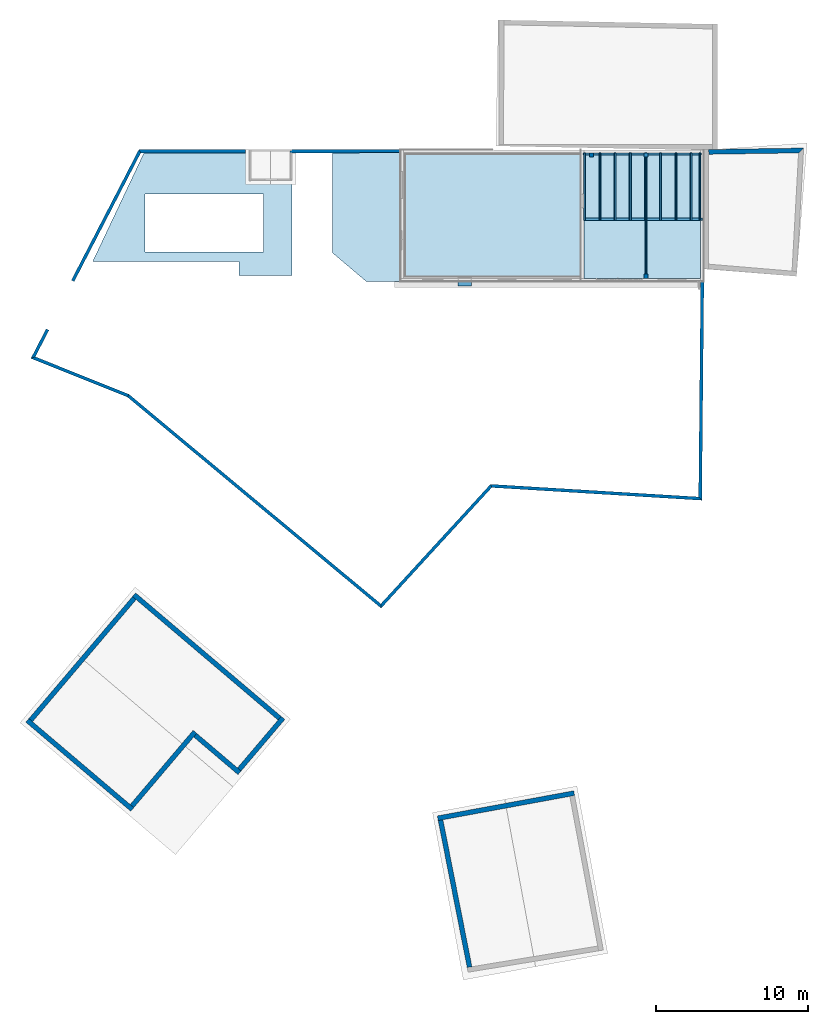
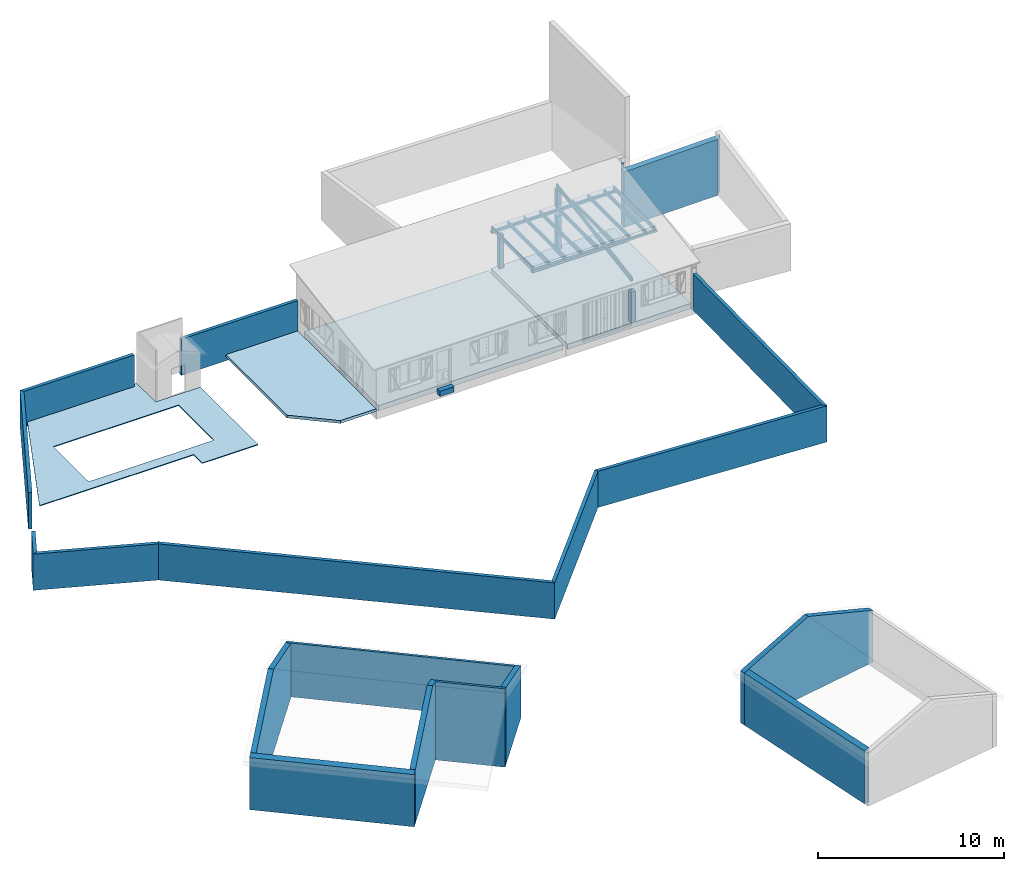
# One storey, part 1 of 12: 18 walls, 12 beams, 6 slabs, 4 columns, 1 opening.
"""IFC2X3 building model written with IfcOpenShell, lengths in metres."""

import ifcopenshell
import ifcopenshell.guid

model = None  # the IFC model being written
_history = None  # IfcOwnerHistory: only IFC2X3 demands one
_inside = {}  # id of a spatial element -> (the spatial element, [elements in it])
_under = {}  # id of a project, library or spatial element -> (it, [spatial elements below it])
_declared = {}  # id of a project -> (the project, [libraries it declares])
_typed = {}  # id of a type object -> (the type object, [elements of that type])
_made_of = {}  # id of a material, layer set ... -> (it, [elements and type objects made of it])


def new_model(schema):
    """Start an empty IFC model of exactly this schema.

    Asked for "IFC4X3", IfcOpenShell would pick the latest addendum, in which some entities
    have other attributes; the version numbers below select the first issue.
    IFC2X3 requires an IfcOwnerHistory on every rooted entity: one is made here for all.
    """
    global model, _history
    if schema == "IFC4X3":
        model = ifcopenshell.file(schema_version=(4, 3, 0, 0))
    else:
        model = ifcopenshell.file(schema=schema)
    _inside.clear()
    _under.clear()
    _declared.clear()
    _typed.clear()
    _made_of.clear()
    _history = None
    if model.schema == "IFC2X3":
        org = make("IfcOrganization", Name="unknown")
        user = make(
            "IfcPersonAndOrganization",
            ThePerson=make("IfcPerson", FamilyName="unknown"),
            TheOrganization=org,
        )
        app = make(
            "IfcApplication",
            ApplicationDeveloper=org,
            Version="unknown",
            ApplicationFullName="unknown",
            ApplicationIdentifier="unknown",
        )
        _history = make(
            "IfcOwnerHistory",
            OwningUser=user,
            OwningApplication=app,
            ChangeAction="ADDED",
            CreationDate=0,
        )
    return model


def make(cls, **values):
    """One entity of the class cls with the attributes given. An attribute that is None is left unset."""
    return model.create_entity(
        cls, **{name: value for name, value in values.items() if value is not None}
    )


def entity(cls, *values):
    """Any entity or typed value of the class cls, its attributes in the order of the schema. None: left unset."""
    e = model.create_entity(cls)
    for i, value in enumerate(values):
        if value is not None:
            e[i] = value
    return e


def rooted(cls, **values):
    """An entity with a GlobalId (a new one), such as an element, a storey or a relation."""
    return make(cls, GlobalId=ifcopenshell.guid.new(), OwnerHistory=_history, **values)


def si_unit(unit_type, name, prefix=None):
    """IfcSIUnit, for example si_unit("LENGTHUNIT", "METRE", prefix="MILLI")."""
    return make("IfcSIUnit", UnitType=unit_type, Prefix=prefix, Name=name)


def converted_unit(unit_type, name, factor, base, dimensions=None, offset=None):
    """IfcConversionBasedUnit, such as the inch: factor (a typed value) times the base unit."""
    return make(
        "IfcConversionBasedUnit"
        if offset is None
        else "IfcConversionBasedUnitWithOffset",
        ConversionOffset=offset,
        Dimensions=None
        if dimensions is None
        else entity("IfcDimensionalExponents", *dimensions),
        UnitType=unit_type,
        Name=name,
        ConversionFactor=make(
            "IfcMeasureWithUnit", ValueComponent=factor, UnitComponent=base
        ),
    )


def derived_unit(unit_type, elements):
    """IfcDerivedUnit: a product of units, each with its exponent."""
    return make(
        "IfcDerivedUnit",
        Elements=[
            make("IfcDerivedUnitElement", Unit=unit, Exponent=power)
            for unit, power in elements
        ],
        UnitType=unit_type,
    )


def money_unit(currency):
    """IfcMonetaryUnit."""
    return make("IfcMonetaryUnit", Currency=currency)


def assignment(units):
    """IfcUnitAssignment: the units of a project."""
    return None if units is None else make("IfcUnitAssignment", Units=units)


def point(xyz):
    """IfcCartesianPoint."""
    return None if xyz is None else make("IfcCartesianPoint", Coordinates=xyz)


def direction(xyz):
    """IfcDirection."""
    return None if xyz is None else make("IfcDirection", DirectionRatios=xyz)


def frame(location, z_axis=None, x_axis=None):
    """IfcAxis2Placement3D, a coordinate frame: its origin and axes. An axis left out is left unset."""
    return make(
        "IfcAxis2Placement3D",
        Location=point(location),
        Axis=direction(z_axis),
        RefDirection=direction(x_axis),
    )


def frame_2d(location, x_axis=None):
    """IfcAxis2Placement2D, a coordinate frame in the plane: its origin and x axis."""
    return make(
        "IfcAxis2Placement2D", Location=point(location), RefDirection=direction(x_axis)
    )


def origin_with_axes():
    """The frame at (0, 0, 0) with the z axis (0, 0, 1) and the x axis (1, 0, 0) written out."""
    return frame((0.0, 0.0, 0.0), z_axis=(0.0, 0.0, 1.0), x_axis=(1.0, 0.0, 0.0))


def origin_2d_with_axis():
    """The frame at (0, 0) in the plane with the x axis (1, 0) written out."""
    return frame_2d((0.0, 0.0), x_axis=(1.0, 0.0))


def place(relative_to, where):
    """IfcLocalPlacement: puts the frame where relative to a parent placement (None: the world)."""
    return make(
        "IfcLocalPlacement", PlacementRelTo=relative_to, RelativePlacement=where
    )


def context(
    kind, dimensions, precision=None, world=None, true_north=None, identifier=None
):
    """IfcGeometricRepresentationContext, for example the 3D "Model" context."""
    return make(
        "IfcGeometricRepresentationContext",
        ContextIdentifier=identifier,
        ContextType=kind,
        CoordinateSpaceDimension=dimensions,
        Precision=precision,
        WorldCoordinateSystem=world,
        TrueNorth=true_north,
    )


def subcontext(parent, identifier, kind, view, scale=None):
    """IfcGeometricRepresentationSubContext, for example "Body" below "Model"."""
    return make(
        "IfcGeometricRepresentationSubContext",
        ContextIdentifier=identifier,
        ContextType=kind,
        ParentContext=parent,
        TargetScale=scale,
        TargetView=view,
    )


def project(units=None, contexts=None):
    """IfcProject with its units and contexts."""
    return rooted(
        "IfcProject",
        Name="project",
        RepresentationContexts=contexts,
        UnitsInContext=assignment(units),
    )


def spatial(cls, under=None, at=None, **own):
    """A site, building, storey or space (cls), placed at a placement, below another one or the project."""
    s = rooted(cls, ObjectPlacement=at, **own)
    if under is not None:
        _under.setdefault(under.id(), (under, []))[1].append(s)
    return s


def polyline(points):
    """IfcPolyline through the points."""
    return make("IfcPolyline", Points=[point(p) for p in points])


def profile(cls, at=None, kind="AREA", **sizes):
    """A parametric profile (cls). Its sizes go by their IFC names, for example OverallWidth=200.0."""
    return make(cls, ProfileType=kind, Position=at, **sizes)


def rectangle(**sizes):
    """IfcRectangleProfileDef."""
    return profile("IfcRectangleProfileDef", **sizes)


def outline(outer, holes=None, kind="AREA"):
    """IfcArbitraryClosedProfileDef: a profile drawn as a closed curve; with holes, ...WithVoids."""
    if holes is None:
        return make("IfcArbitraryClosedProfileDef", ProfileType=kind, OuterCurve=outer)
    return make(
        "IfcArbitraryProfileDefWithVoids",
        ProfileType=kind,
        OuterCurve=outer,
        InnerCurves=holes,
    )


def extrude(swept, where, along, depth):
    """IfcExtrudedAreaSolid: the profile swept, set in the frame where, extruded along a direction by depth."""
    return make(
        "IfcExtrudedAreaSolid",
        SweptArea=swept,
        Position=where,
        ExtrudedDirection=direction(along),
        Depth=depth,
    )


def boolean(op, a, b):
    """IfcBooleanResult of two solids."""
    return make("IfcBooleanResult", Operator=op, FirstOperand=a, SecondOperand=b)


def clip(a, b, op="DIFFERENCE"):
    """IfcBooleanClippingResult: the solid a cut by the half space b."""
    return make(
        "IfcBooleanClippingResult", Operator=op, FirstOperand=a, SecondOperand=b
    )


def halfspace(plane, agree):
    """IfcHalfSpaceSolid: all space on one side of the plane z = 0 of the frame plane."""
    return make(
        "IfcHalfSpaceSolid",
        BaseSurface=make("IfcPlane", Position=plane),
        AgreementFlag=agree,
    )


def bounded_halfspace(plane, agree, where, boundary):
    """IfcPolygonalBoundedHalfSpace: a half space limited to a polygon's prism."""
    return make(
        "IfcPolygonalBoundedHalfSpace",
        BaseSurface=make("IfcPlane", Position=plane),
        AgreementFlag=agree,
        Position=where,
        PolygonalBoundary=boundary,
    )


def faces_of(points, faces, orient=None, outer=None):
    """IfcFace entities. A face is a list of loops; a loop is a list of indices into points, from 0.

    orient and outer hold one flag for each loop. By default every Orientation is true, the
    first loop of a face is its IfcFaceOuterBound and the others are IfcFaceBound.
    """
    made = []
    for i, loops in enumerate(faces):
        bounds = []
        for j, loop in enumerate(loops):
            is_outer = j == 0 if outer is None else outer[i][j]
            bounds.append(
                make(
                    "IfcFaceOuterBound" if is_outer else "IfcFaceBound",
                    Bound=make("IfcPolyLoop", Polygon=[points[k] for k in loop]),
                    Orientation=True if orient is None else orient[i][j],
                )
            )
        made.append(make("IfcFace", Bounds=bounds))
    return made


def faceted_brep(points, faces, orient=None, outer=None, voids=None):
    """IfcFacetedBrep: a solid bounded by flat faces; with voids (closed shells), ...WithVoids."""
    shared = [point(p) for p in points]
    hull = make("IfcClosedShell", CfsFaces=faces_of(shared, faces, orient, outer))
    if voids is None:
        return make("IfcFacetedBrep", Outer=hull)
    return make(
        "IfcFacetedBrepWithVoids",
        Outer=hull,
        Voids=[
            make(cls, CfsFaces=faces_of(shared, fs, o, b)) for cls, fs, o, b in voids
        ],
    )


def shape(context_of_items, identifier, shape_type, items):
    """IfcShapeRepresentation: the items that make up one representation, for example the "Body"."""
    return make(
        "IfcShapeRepresentation",
        ContextOfItems=context_of_items,
        RepresentationIdentifier=identifier,
        RepresentationType=shape_type,
        Items=items,
    )


def material(Name=None, Category=None):
    """IfcMaterial."""
    return make("IfcMaterial", Name=Name, Category=Category)


def layer(
    of_material, thickness, ventilated=None, Name=None, Category=None, Priority=None
):
    """IfcMaterialLayer: one layer of a wall or slab, of a material (None: an air gap)."""
    return make(
        "IfcMaterialLayer",
        Material=of_material,
        LayerThickness=thickness,
        IsVentilated=ventilated,
        Name=Name,
        Category=Category,
        Priority=Priority,
    )


def layer_set(layers, Name=None):
    """IfcMaterialLayerSet."""
    return make("IfcMaterialLayerSet", MaterialLayers=layers, LayerSetName=Name)


def layer_usage(for_layer_set, set_direction, sense, offset, extent=None):
    """IfcMaterialLayerSetUsage: how a layer set lies in its element."""
    return make(
        "IfcMaterialLayerSetUsage",
        ForLayerSet=for_layer_set,
        LayerSetDirection=set_direction,
        DirectionSense=sense,
        OffsetFromReferenceLine=offset,
        ReferenceExtent=extent,
    )


def made_of(thing, what):
    """Note that an element or type object is made of a material, layer set ...; save() writes the relation."""
    if what is not None:
        _made_of.setdefault(what.id(), (what, []))[1].append(thing)
    return thing


def type_object(cls, material=None, **own):
    """A type object (cls), such as IfcWallType, which elements share."""
    return made_of(rooted(cls, **own), material)


def element(
    cls,
    number,
    at=None,
    inside=None,
    cuts=None,
    type_object=None,
    material=None,
    context=None,
    identifier="Body",
    shape_type=None,
    held_by="IfcProductDefinitionShape",
    body=None,
    shapes=None,
    **own,
):
    """One element of the class cls, such as IfcWall. Its Tag is "e" and its number.

    at: its placement. inside: the storey or other place that contains it. cuts: it is an
    opening in that element (IfcRelVoidsElement). A single representation is given by context,
    identifier, shape_type and body (its items); several are given by shapes. held_by: the class
    of the entity that holds the representations. save() writes the other relations.
    """
    e = rooted(cls, Tag="e%d" % number, ObjectPlacement=at, **own)
    if body is not None:
        shapes = [shape(context, identifier, shape_type, body)]
    if shapes is not None:
        e.Representation = make(held_by, Representations=shapes)
    if inside is not None:
        _inside.setdefault(inside.id(), (inside, []))[1].append(e)
    if cuts is not None:
        rooted(
            "IfcRelVoidsElement", RelatingBuildingElement=cuts, RelatedOpeningElement=e
        )
    if type_object is not None:
        _typed.setdefault(type_object.id(), (type_object, []))[1].append(e)
    return made_of(e, material)


def aggregate(whole, parts):
    """IfcRelAggregates: a whole, such as a stair, and the parts it consists of."""
    return rooted("IfcRelAggregates", RelatingObject=whole, RelatedObjects=parts)


def save(model, path):
    """Write the relations noted so far, then the file.

    IfcRelAggregates (storeys below a building ...), IfcRelContainedInSpatialStructure (elements
    in a storey), IfcRelDefinesByType, IfcRelAssociatesMaterial and IfcRelDeclares: one each for
    every whole, place, type object, material and project.
    """
    for whole, parts in _under.values():
        aggregate(whole, parts)
    for where, things in _inside.values():
        rooted(
            "IfcRelContainedInSpatialStructure",
            RelatedElements=things,
            RelatingStructure=where,
        )
    for kind, things in _typed.values():
        rooted("IfcRelDefinesByType", RelatedObjects=things, RelatingType=kind)
    for what, things in _made_of.values():
        rooted("IfcRelAssociatesMaterial", RelatedObjects=things, RelatingMaterial=what)
    for by, libraries in _declared.values():
        rooted("IfcRelDeclares", RelatingContext=by, RelatedDefinitions=libraries)
    model.write(path)


model = new_model("IFC2X3")

# Units and contexts
model_context = context("Model", 3, precision=1e-05, world=origin_with_axes(), true_north=direction((0.0, 1.0)))
body_context = subcontext(model_context, "Body", "Model", "MODEL_VIEW")
ifc_project = project(units=[si_unit("LENGTHUNIT", "METRE"), si_unit("AREAUNIT", "SQUARE_METRE"), si_unit("VOLUMEUNIT", "CUBIC_METRE"), converted_unit("PLANEANGLEUNIT", "DEGREE", entity("IfcPlaneAngleMeasure", 0.0174532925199), si_unit("PLANEANGLEUNIT", "RADIAN"), dimensions=[0, 0, 0, 0, 0, 0, 0]), si_unit("SOLIDANGLEUNIT", "STERADIAN"), money_unit("CHF"), converted_unit("TIMEUNIT", "Year", entity("IfcTimeMeasure", 31556926.0), si_unit("TIMEUNIT", "SECOND"), dimensions=[0, 0, 1, 0, 0, 0, 0]), si_unit("MASSUNIT", "GRAM", prefix="KILO"), si_unit("THERMODYNAMICTEMPERATUREUNIT", "DEGREE_CELSIUS"), si_unit("LUMINOUSINTENSITYUNIT", "LUMEN"), si_unit("ENERGYUNIT", "JOULE", prefix="MEGA"), derived_unit("THERMALCONDUCTANCEUNIT", [(si_unit("POWERUNIT", "WATT"), 1), (si_unit("LENGTHUNIT", "METRE"), -1), (si_unit("THERMODYNAMICTEMPERATUREUNIT", "KELVIN"), -1)]), derived_unit("SPECIFICHEATCAPACITYUNIT", [(si_unit("ENERGYUNIT", "JOULE"), 1), (si_unit("MASSUNIT", "GRAM", prefix="KILO"), -1), (si_unit("THERMODYNAMICTEMPERATUREUNIT", "KELVIN"), -1)]), derived_unit("MASSDENSITYUNIT", [(si_unit("MASSUNIT", "GRAM", prefix="KILO"), 1), (si_unit("VOLUMEUNIT", "CUBIC_METRE"), -1)])], contexts=[model_context])

# Site, building, storey
site_placement = place(None, origin_with_axes())
site = spatial("IfcSite", under=ifc_project, at=site_placement, Name="Site", CompositionType="ELEMENT")
building_placement = place(site_placement, origin_with_axes())
building = spatial("IfcBuilding", under=site, at=building_placement, Name="Bâtiment", CompositionType="ELEMENT")
storey_placement = place(building_placement, origin_with_axes())
storey = spatial("IfcBuildingStorey", under=building, at=storey_placement, Name="Rez-de-chaussée", CompositionType="ELEMENT", Elevation=0.0)

# Columns
ifc_material_1 = material(Name="Béton armé (Coulé)")
column_type = type_object("IfcColumnType", Name="Béton armé (Coulé) 270 x 270", PredefinedType="COLUMN")
column_1_placement = place(storey_placement, frame((24.1071417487, 16.0579346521, 0.0), z_axis=(0.0, 0.0, 1.0), x_axis=(1.0, 0.0, 0.0)))
element("IfcColumn", 1, at=column_1_placement, inside=storey, type_object=column_type, material=ifc_material_1, Name="POTEAU-002", ObjectType="COLUMN", context=body_context, shape_type="SweptSolid", body=[
    extrude(rectangle(XDim=0.27, YDim=0.27, at=origin_2d_with_axis()), origin_with_axes(), (0.0, 0.0, 1.0), 2.19),
])
column_2_placement = place(storey_placement, frame((27.6771417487, 16.0579346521, 0.0), z_axis=(0.0, 0.0, 1.0), x_axis=(1.0, 0.0, 0.0)))
element("IfcColumn", 2, at=column_2_placement, inside=storey, type_object=column_type, material=ifc_material_1, Name="POTEAU-002", ObjectType="COLUMN", context=body_context, shape_type="SweptSolid", body=[
    extrude(rectangle(XDim=0.27, YDim=0.27, at=origin_2d_with_axis()), origin_with_axes(), (0.0, 0.0, 1.0), 2.19400608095),
])
column_3_placement = place(storey_placement, frame((27.6771417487, 8.0879346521, 0.0), z_axis=(0.0, 0.0, 1.0), x_axis=(1.0, 0.0, 0.0)))
element("IfcColumn", 3, at=column_3_placement, inside=storey, type_object=column_type, material=ifc_material_1, Name="POTEAU-002", ObjectType="COLUMN", context=body_context, shape_type="SweptSolid", body=[
    extrude(rectangle(XDim=0.27, YDim=0.27, at=origin_2d_with_axis()), origin_with_axes(), (0.0, 0.0, 1.0), 2.03426351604),
])
column_4_placement = place(storey_placement, frame((27.6771417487, 16.0579346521, 2.79), z_axis=(0.0, 0.0, 1.0), x_axis=(1.0, 0.0, 0.0)))
element("IfcColumn", 4, at=column_4_placement, inside=storey, type_object=column_type, material=ifc_material_1, Name="POTEAU-002", ObjectType="COLUMN", context=body_context, shape_type="SweptSolid", body=[
    extrude(rectangle(XDim=0.27, YDim=0.27, at=origin_2d_with_axis()), origin_with_axes(), (0.0, 0.0, 1.0), 1.11253522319),
])

# Beams
ifc_material_2 = material(Name="Bois massif")
beam_type_1 = type_object("IfcBeamType", Name="Bois massif 150 x 150", PredefinedType="BEAM")
for number, where, z_axis, x_axis, name in (
    (5, (23.6021417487, 11.8377630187, 2.44656535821), (0.0, 0.0, 1.0), (0.0, -1.0, 0.0), "POUTRE-005"),
    (6, (23.5514543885, 16.1179346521, 2.44656535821), (0.0, 0.0, 1.0), (0.0, -1.0, 0.0), "POUTRE-005"),
):
    element("IfcBeam", number, at=place(storey_placement, frame(where, z_axis=z_axis, x_axis=x_axis)), inside=storey, type_object=beam_type_1, material=ifc_material_2, Name=name, ObjectType="BEAM", context=body_context, shape_type="SweptSolid", body=[
        extrude(rectangle(XDim=0.15, YDim=0.15, at=origin_2d_with_axis()), frame((0.0, 0.0, 0.0), z_axis=(0.0, 1.0, 0.0), x_axis=(0.0, 0.0, 1.0)), (0.0, 0.0, 1.0), 7.7886339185),
    ])
beam_type_2 = type_object("IfcBeamType", Name="Bois massif 100 x 220", PredefinedType="BEAM")
beam_placement = place(storey_placement, frame((27.6771417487, 8.1029346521, 2.76277300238), z_axis=(0.0, 0.0, 1.0), x_axis=(1.0, 0.0, 0.0)))
element("IfcBeam", 7, at=beam_placement, inside=storey, type_object=beam_type_2, material=ifc_material_2, Name="POUTRE-003", ObjectType="BEAM", context=body_context, shape_type="Clipping", body=[
    clip(clip(extrude(rectangle(XDim=0.22, YDim=0.1, at=origin_2d_with_axis()), frame((0.0, -0.0491536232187, -0.00786433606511), z_axis=(0.0, 0.987441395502, 0.157985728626), x_axis=(0.0, -0.157985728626, 0.987441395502)), (0.0, 0.0, 1.0), 8.28727692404), halfspace(frame((0.0, 0.0, 0.0), z_axis=(0.0, 1.0, 0.0), x_axis=(0.0, 0.0, 1.0)), True)), halfspace(frame((0.0, 8.08489304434, 0.0), z_axis=(0.0, -1.0, 0.0), x_axis=(0.0, 0.0, -1.0)), True)),
])
for number, where, z_axis, x_axis, name in (
    (8, (23.6521417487, 11.7627630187, 2.63156535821), (0.0, 0.0, 1.0), (1.0, 0.0, 0.0), "POUTRE-006"),
    (9, (24.6521417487, 11.7627630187, 2.63156535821), (0.0, 0.0, 1.0), (1.0, 0.0, 0.0), "POUTRE-006"),
    (10, (25.6521417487, 11.7627630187, 2.63156535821), (0.0, 0.0, 1.0), (1.0, 0.0, 0.0), "POUTRE-006"),
    (11, (26.6521417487, 11.7627630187, 2.63156535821), (0.0, 0.0, 1.0), (1.0, 0.0, 0.0), "POUTRE-006"),
    (12, (27.6521417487, 11.7627630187, 2.63156535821), (0.0, 0.0, 1.0), (1.0, 0.0, 0.0), "POUTRE-006"),
    (13, (28.6521417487, 11.7627630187, 2.63156535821), (0.0, 0.0, 1.0), (1.0, 0.0, 0.0), "POUTRE-006"),
    (14, (29.6521417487, 11.7627630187, 2.63156535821), (0.0, 0.0, 1.0), (1.0, 0.0, 0.0), "POUTRE-006"),
    (15, (30.6521417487, 11.7627630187, 2.63156535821), (0.0, 0.0, 1.0), (1.0, 0.0, 0.0), "POUTRE-006"),
    (16, (31.2221417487, 11.7627630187, 2.63156535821), (0.0, 0.0, 1.0), (1.0, 0.0, 0.0), "POUTRE-006"),
):
    element("IfcBeam", number, at=place(storey_placement, frame(where, z_axis=z_axis, x_axis=x_axis)), inside=storey, type_object=beam_type_2, material=ifc_material_2, Name=name, ObjectType="BEAM", context=body_context, shape_type="SweptSolid", body=[
        extrude(rectangle(XDim=0.22, YDim=0.1, at=origin_2d_with_axis()), frame((0.0, 0.0, 0.0), z_axis=(0.0, 1.0, 0.0), x_axis=(0.0, 0.0, 1.0)), (0.0, 0.0, 1.0), 4.43017163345),
    ])

# Slabs
ifc_layer_1 = layer(ifc_material_1, 0.34, ventilated="UNKNOWN")
ifc_layer_set_1 = layer_set([ifc_layer_1], Name="Béton armé (Coulé) 0.34")
ifc_layer_usage_1 = layer_usage(ifc_layer_set_1, "AXIS3", "NEGATIVE", 0.34)
slab_type_1 = type_object("IfcSlabType", Name="Béton armé (Coulé) 340", PredefinedType="FLOOR")
slab_1_placement = place(storey_placement, frame((31.2721417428, 16.1929346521, 0.0), z_axis=(0.0, 0.0, 1.0), x_axis=(1.0, 0.0, 0.0)))
element("IfcSlab", 17, at=slab_1_placement, inside=storey, type_object=slab_type_1, material=ifc_layer_usage_1, Name="DALLE-002", PredefinedType="FLOOR", context=body_context, shape_type="SweptSolid", body=[
    extrude(outline(polyline([(0.0, 0.0), (-7.66999999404, 0.0), (-7.66999999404, -8.24), (0.0, -8.24), (0.0, 0.0)])), frame((0.0, 0.0, -0.34), z_axis=(0.0, 0.0, 1.0), x_axis=(1.0, 0.0, 0.0)), (0.0, 0.0, 1.0), 0.34),
])
ifc_layer_usage_2 = layer_usage(ifc_layer_set_1, "AXIS3", "NEGATIVE", 0.34)
slab_2_placement = place(storey_placement, frame((15.3471417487, 7.4379346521, 0.1), z_axis=(0.0, 0.0, 1.0), x_axis=(1.0, 0.0, 0.0)))
element("IfcSlab", 18, at=slab_2_placement, inside=storey, type_object=slab_type_1, material=ifc_layer_usage_2, Name="DALLE-004", PredefinedType="FLOOR", context=body_context, shape_type="SweptSolid", body=[
    extrude(outline(polyline([(0.0, 0.0), (0.9, 0.0), (0.9, 0.3), (0.0, 0.3), (0.0, 0.0)])), frame((0.0, 0.0, -0.34), z_axis=(0.0, 0.0, 1.0), x_axis=(1.0, 0.0, 0.0)), (0.0, 0.0, 1.0), 0.34),
])
ifc_layer_usage_3 = layer_usage(ifc_layer_set_1, "AXIS3", "NEGATIVE", 0.34)
slab_3_placement = place(storey_placement, frame((11.8821417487, 8.0529346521, 0.0), z_axis=(0.0, 0.0, 1.0), x_axis=(1.0, 0.0, 0.0)))
element("IfcSlab", 19, at=slab_3_placement, inside=storey, type_object=slab_type_1, material=ifc_layer_usage_3, Name="DALLE-002", PredefinedType="FLOOR", context=body_context, shape_type="SweptSolid", body=[
    extrude(outline(polyline([(0.0, 0.0), (11.505, 0.0), (11.505, 8.03999994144), (0.0, 8.03999994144), (0.0, 0.0)])), frame((0.0, 0.0, -0.34), z_axis=(0.0, 0.0, 1.0), x_axis=(1.0, 0.0, 0.0)), (0.0, 0.0, 1.0), 0.34),
])
ifc_material_3 = material(Name="Bois - Liteaux")
ifc_layer_2 = layer(ifc_material_3, 0.183233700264, ventilated="UNKNOWN")
ifc_layer_set_2 = layer_set([ifc_layer_2], Name="Bois - Liteaux 0.183234")
ifc_layer_usage_4 = layer_usage(ifc_layer_set_2, "AXIS3", "NEGATIVE", 0.183233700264)
slab_type_2 = type_object("IfcSlabType", Name="Bois - Liteaux 183", PredefinedType="FLOOR")
slab_4_placement = place(storey_placement, frame((9.3325351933, 7.7379346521, 0.1), z_axis=(0.0, 0.0, 1.0), x_axis=(1.0, 0.0, 0.0)))
element("IfcSlab", 20, at=slab_4_placement, inside=storey, type_object=slab_type_2, material=ifc_layer_usage_4, Name="DALLE-003", PredefinedType="FLOOR", context=body_context, shape_type="SweptSolid", body=[
    extrude(outline(polyline([(0.0, 0.0), (2.23460655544, 0.0), (2.23460655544, 8.67), (-2.23460655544, 8.67), (-2.23460655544, 1.89373242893), (0.0, 0.0)])), frame((0.0, 0.0, -0.183233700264), z_axis=(0.0, 0.0, 1.0), x_axis=(1.0, 0.0, 0.0)), (0.0, 0.0, 1.0), 0.183233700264),
])

# Slab, opening
ifc_material_4 = material(Name="Dallage pierre")
ifc_layer_3 = layer(ifc_material_4, 0.054, ventilated="UNKNOWN")
ifc_layer_set_3 = layer_set([ifc_layer_3], Name="Dallage pierre 0.054")
ifc_layer_usage_5 = layer_usage(ifc_layer_set_3, "AXIS3", "NEGATIVE", 0.054)
slab_type_3 = type_object("IfcSlabType", Name="Dallage pierre 54", PredefinedType="FLOOR")
slab_5_placement = place(storey_placement, frame((-8.635027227, 9.05590577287, 0.0), z_axis=(0.0, 0.0, 1.0), x_axis=(1.0, 0.0, 0.0)))
slab_5 = element("IfcSlab", 21, at=slab_5_placement, inside=storey, type_object=slab_type_3, material=ifc_layer_usage_5, Name="DALLE-004", PredefinedType="FLOOR", context=body_context, shape_type="SweptSolid", body=[
    extrude(outline(polyline([(0.0, 0.0), (9.59721576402, 0.0), (9.59721576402, -0.909475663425), (13.0835391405, -0.909475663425), (13.0835391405, 5.31354311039), (10.2915257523, 5.31354304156), (10.2915257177, 7.34605666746), (3.46774623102, 7.34469052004), (0.0, 0.0)])), frame((0.0, 0.0, -0.054), z_axis=(0.0, 0.0, 1.0), x_axis=(1.0, 0.0, 0.0)), (0.0, 0.0, 1.0), 0.054),
])
opening_placement = place(slab_5_placement, frame((3.42559937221, 4.43073908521, 0.0), z_axis=(0.0, 0.0, 1.0), x_axis=(0.0, -1.0, 0.0)))
element("IfcOpeningElement", 22, at=opening_placement, cuts=slab_5, Name="Ouverture de dalle", context=body_context, shape_type="SweptSolid", body=[
    extrude(outline(polyline([(0.0, 0.0), (3.8, 0.0), (3.8, 7.8), (0.0, 7.8), (0.0, 0.0)])), frame((0.0, 0.0, -0.054), z_axis=(0.0, 0.0, 1.0), x_axis=(1.0, 0.0, 0.0)), (0.0, 0.0, 1.0), 0.054),
])

# Slab
ifc_material_5 = material(Name="Bois OSB")
ifc_layer_4 = layer(ifc_material_5, 0.054, ventilated="UNKNOWN")
ifc_layer_set_4 = layer_set([ifc_layer_4], Name="Bois OSB 0.054")
ifc_layer_usage_6 = layer_usage(ifc_layer_set_4, "AXIS3", "NEGATIVE", 0.054)
slab_type_4 = type_object("IfcSlabType", Name="Bois OSB 54", PredefinedType="FLOOR")
slab_6_placement = place(storey_placement, frame((23.6021417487, 11.7627630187, 2.79689412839), z_axis=(0.0, 0.0, 1.0), x_axis=(1.0, 0.0, 0.0)))
element("IfcSlab", 23, at=slab_6_placement, inside=storey, type_object=slab_type_4, material=ifc_layer_usage_6, Name="DALLE-005", PredefinedType="FLOOR", context=body_context, shape_type="SweptSolid", body=[
    extrude(outline(polyline([(0.0, 0.0), (7.67, 0.0), (7.67, 4.43017163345), (0.0, 4.43017163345), (0.0, 0.0)])), frame((0.0, 0.0, -0.054), z_axis=(0.0, 0.0, 1.0), x_axis=(1.0, 0.0, 0.0)), (0.0, 0.0, 1.0), 0.054),
])

# Walls
ifc_material_6 = material(Name="Volume - Etude")
ifc_layer_5 = layer(ifc_material_6, 0.315, ventilated="UNKNOWN")
ifc_layer_set_5 = layer_set([ifc_layer_5], Name="Volume - Etude 0.315")
ifc_layer_usage_7 = layer_usage(ifc_layer_set_5, "AXIS2", "POSITIVE", 0.0)
wall_type_1 = type_object("IfcWallType", Name="Volume - Etude 315", PredefinedType="ELEMENTEDWALL")
wall_1_placement = place(storey_placement, frame((38.0341147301, 16.5043029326, -0.13), z_axis=(0.0, 0.0, 1.0), x_axis=(-0.999880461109, -0.0154616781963, 0.0)))
element("IfcWallStandardCase", 24, at=wall_1_placement, inside=storey, type_object=wall_type_1, material=ifc_layer_usage_7, Name="MUR_EXT-028", ObjectType="ELEMENTEDWALL", context=body_context, shape_type="Clipping", body=[
    clip(extrude(outline(polyline([(0.0, 0.0), (6.23271803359, 0.0), (6.23271803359, 0.315), (0.338126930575, 0.315), (0.0, 0.0)])), origin_with_axes(), (0.0, 0.0, 1.0), 4.04002765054), bounded_halfspace(frame((0.0276620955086, 0.390112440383, 3.68326103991), z_axis=(-0.00746823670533, -0.105322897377, -0.994410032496), x_axis=(0.0, 0.994437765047, -0.105325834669)), True, origin_with_axes(), polyline([(-6.27842926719, -0.01), (5.83476852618, -0.01), (12.1321013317, 0.315), (12.1321013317, 0.325), (0.0189035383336, 0.325), (-6.27842926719, 0.0), (-6.27842926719, -0.01)]))),
])
wall_2_placement = place(storey_placement, frame((-13.0246922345, -21.1850699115, -0.13), z_axis=(0.0, 0.0, 1.0), x_axis=(0.762532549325, -0.646949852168, 0.0)))
element("IfcWall", 25, at=wall_2_placement, inside=storey, type_object=wall_type_1, material=ifc_material_6, Name="MUR_EXT-011", ObjectType="ELEMENTEDWALL", context=body_context, shape_type="CSG", body=[
    boolean("DIFFERENCE", extrude(outline(polyline([(0.0, 0.0), (9.03240382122, 0.0), (9.03240382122, 0.315), (0.0, 0.315), (0.0, 0.0)])), origin_with_axes(), (0.0, 0.0, 1.0), 8.27830126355), faceted_brep([(9.03240382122, 0.0, 3.42995844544), (9.0324018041, 0.315, 3.54460906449), (9.03240382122, 0.315, 8.27830126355), (9.03240382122, 0.0, 8.27830126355), (8.85817085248e-05, 0.315, 3.54368458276), (0.0, 0.0, 3.42903395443), (8.85817085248e-05, 0.315, 0.0), (0.0, 0.315, 0.0), (0.0, 0.315, 8.27830126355), (0.0, 0.0, 8.27830126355), (0.0, 0.0, 0.0)], [[[0, 1, 2, 3]], [[4, 1, 0, 5]], [[4, 6, 7, 8, 2, 1]], [[8, 9, 3, 2]], [[5, 0, 3, 9]], [[6, 4, 5, 10]], [[6, 10, 7]], [[10, 5, 9, 8, 7]]])),
])
wall_3_placement = place(storey_placement, frame((-6.13719032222, -27.0285822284, -0.13), z_axis=(0.0, 0.0, 1.0), x_axis=(0.646944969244, 0.762536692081, 0.0)))
element("IfcWall", 26, at=wall_3_placement, inside=storey, type_object=wall_type_1, material=ifc_material_6, Name="MUR_EXT-012", ObjectType="ELEMENTEDWALL", context=body_context, shape_type="CSG", body=[
    boolean("DIFFERENCE", extrude(outline(polyline([(0.0, 0.0), (6.70225243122, 0.0), (6.70225243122, 0.315), (0.0, 0.315), (0.0, 0.0)])), origin_with_axes(), (0.0, 0.0, 1.0), 8.27830126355), faceted_brep([(0.315000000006, 0.0, 3.54460906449), (5.5660208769, 0.0, 5.45582428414), (6.70219431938, 0.0, 5.04229098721), (6.70219431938, 0.0, 0.0), (6.70225243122, 0.0, 0.0), (6.70225243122, 0.0, 8.27830126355), (0.0, 0.0, 8.27830126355), (0.0, 0.0, 0.0), (0.315000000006, 0.0, 0.0), (0.315002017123, 0.315, 3.54457682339), (5.56611147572, 0.315, 5.45582428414), (6.70225243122, 0.315, 5.04230281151), (6.70225243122, 0.315, 0.0), (6.70225243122, 0.315, 8.27830126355), (0.0, 0.315, 8.27830126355), (0.0, 0.315, 0.0), (0.315002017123, 0.315, 0.0)], [[[0, 1, 2, 3, 4, 5, 6, 7, 8]], [[1, 0, 9, 10]], [[2, 1, 10, 11]], [[3, 2, 11, 12]], [[3, 12, 4]], [[12, 11, 13, 5, 4]], [[14, 6, 5, 13]], [[14, 15, 7, 6]], [[16, 8, 7, 15]], [[0, 8, 16, 9]], [[9, 16, 15, 14, 13, 11, 10]]])),
])
wall_4_placement = place(storey_placement, frame((-2.00502709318, -22.1581122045, -0.13), z_axis=(0.0, 0.0, 1.0), x_axis=(0.762417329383, -0.647085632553, 0.0)))
element("IfcWall", 27, at=wall_4_placement, inside=storey, type_object=wall_type_1, material=ifc_material_6, Name="MUR_EXT-013", ObjectType="ELEMENTEDWALL", context=body_context, shape_type="CSG", body=[
    boolean("DIFFERENCE", extrude(outline(polyline([(-0.315058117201, 0.0), (3.81435050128, 0.0), (3.81435050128, 0.315), (-0.315058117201, 0.315), (-0.315058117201, 0.0)])), origin_with_axes(), (0.0, 0.0, 1.0), 8.27830126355), faceted_brep([(3.81435050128, 0.315, 0.0), (3.81435050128, 0.315, 5.04214780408), (3.81435050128, 0.315, 8.27830126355), (3.81435050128, 0.0, 8.27830126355), (3.81435050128, 0.0, 0.0), (3.81420077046, 0.0, 0.0), (3.81420077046, 0.0, 5.15679843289), (-5.81118409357e-05, 0.315, 5.04229098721), (-5.81118409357e-05, 0.315, 0.0), (-0.315058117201, 0.315, 0.0), (-0.315058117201, 0.315, 8.27830126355), (-0.315058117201, 0.0, 8.27830126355), (-0.315058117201, 0.0, 0.0), (0.0, 0.0, 0.0), (0.0, 0.0, 5.15694160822)], [[[0, 1, 2, 3, 4]], [[1, 0, 5, 6]], [[7, 8, 9, 10, 2, 1]], [[10, 11, 3, 2]], [[6, 5, 4, 3, 11, 12, 13, 14]], [[5, 0, 4]], [[7, 1, 6, 14]], [[8, 7, 14, 13]], [[8, 13, 12, 9]], [[10, 9, 12, 11]]])),
])
wall_5_placement = place(storey_placement, frame((0.902985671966, -24.6262267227, -0.13), z_axis=(0.0, 0.0, 1.0), x_axis=(0.647447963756, 0.762109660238, 0.0)))
element("IfcWall", 28, at=wall_5_placement, inside=storey, type_object=wall_type_1, material=ifc_material_6, Name="MUR_EXT-014", ObjectType="ELEMENTEDWALL", context=body_context, shape_type="CSG", body=[
    boolean("DIFFERENCE", extrude(outline(polyline([(-0.000149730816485, 0.0), (4.74950847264, 0.0), (4.74950847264, 0.315), (-0.000149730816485, 0.315), (-0.000149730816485, 0.0)])), origin_with_axes(), (0.0, 0.0, 1.0), 8.27830126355), faceted_brep([(0.315000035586, 0.0, 0.0), (0.315000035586, 0.0, 5.04214780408), (4.74950847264, 0.0, 3.42811884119), (4.74950847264, 0.0, 8.27830126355), (-0.000149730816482, 0.0, 8.27830126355), (-0.000149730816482, 0.0, 0.0), (0.31485030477, 0.315, 0.0), (0.31485030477, 0.315, 5.04215962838), (4.74932957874, 0.315, 3.42814127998), (4.74950847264, 0.0, 0.0), (4.74950847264, 0.315, 0.0), (4.74950847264, 0.315, 8.27830126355), (-0.000149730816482, 0.315, 8.27830126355), (-0.000149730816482, 0.315, 0.0), (4.74932957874, 0.315, 0.0)], [[[0, 1, 2, 3, 4, 5]], [[1, 0, 6, 7]], [[2, 1, 7, 8]], [[2, 9, 10, 11, 3]], [[12, 4, 3, 11]], [[12, 13, 5, 4]], [[6, 0, 5, 13]], [[7, 6, 13, 12, 11, 10, 14, 8]], [[9, 2, 8, 14]], [[9, 14, 10]]])),
])
wall_6_placement = place(storey_placement, frame((3.97804526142, -21.0065804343, -0.13), z_axis=(0.0, 0.0, 1.0), x_axis=(-0.762477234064, 0.647015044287, 0.0)))
element("IfcWall", 29, at=wall_6_placement, inside=storey, type_object=wall_type_1, material=ifc_material_6, Name="MUR_EXT-015", ObjectType="ELEMENTEDWALL", context=body_context, shape_type="CSG", body=[
    boolean("DIFFERENCE", extrude(outline(polyline([(0.0, 0.0), (12.8465968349, 0.0), (12.8465968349, 0.315), (0.0, 0.315), (0.0, 0.0)])), origin_with_axes(), (0.0, 0.0, 1.0), 8.27830126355), faceted_brep([(12.8465351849, 0.0, 3.42903395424), (12.8465351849, 0.0, 0.0), (12.8465968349, 0.0, 0.0), (12.8465968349, 0.0, 8.27830126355), (0.0, 0.0, 8.27830126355), (0.0, 0.0, 0.0), (0.315000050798, 0.0, 0.0), (0.315000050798, 0.0, 3.42814127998), (12.8465968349, 0.315, 3.54368458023), (12.8465968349, 0.315, 0.0), (12.8465968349, 0.315, 8.27830126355), (0.0, 0.315, 8.27830126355), (0.0, 0.315, 0.0), (0.315178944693, 0.315, 0.0), (0.315178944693, 0.315, 3.54279191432)], [[[0, 1, 2, 3, 4, 5, 6, 7]], [[1, 0, 8, 9]], [[1, 9, 2]], [[9, 8, 10, 3, 2]], [[11, 4, 3, 10]], [[11, 12, 5, 4]], [[13, 6, 5, 12]], [[7, 6, 13, 14]], [[0, 7, 14, 8]], [[14, 13, 12, 11, 10, 8]]])),
])
wall_7_placement = place(storey_placement, frame((-5.81714535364, -12.6946789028, -0.13), z_axis=(0.0, 0.0, 1.0), x_axis=(-0.64716425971, -0.762350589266, 0.0)))
element("IfcWall", 30, at=wall_7_placement, inside=storey, type_object=wall_type_1, material=ifc_material_6, Name="MUR_EXT-016", ObjectType="ELEMENTEDWALL", context=body_context, shape_type="CSG", body=[
    boolean("DIFFERENCE", extrude(outline(polyline([(-6.16500535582e-05, 0.0), (11.1371213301, 0.0), (11.1371213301, 0.315), (-6.16500535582e-05, 0.315), (-6.16500535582e-05, 0.0)])), origin_with_axes(), (0.0, 0.0, 1.0), 8.27830126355), faceted_brep([(10.822032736, 0.315, 3.54371682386), (5.56856066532, 0.315, 5.45582428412), (0.314938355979, 0.315, 3.54366214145), (0.314938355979, 0.315, 0.0), (-6.16500535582e-05, 0.315, 0.0), (-6.16500535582e-05, 0.315, 8.27830126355), (11.1371213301, 0.315, 8.27830126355), (11.1371213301, 0.315, 0.0), (10.822032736, 0.315, 0.0), (10.8221213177, 0.0, 3.54368458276), (5.56856066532, 0.0, 5.45582428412), (0.315000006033, 0.0, 3.54368458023), (0.315000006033, 0.0, 0.0), (-6.16500535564e-05, 0.0, 0.0), (-6.16500535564e-05, 0.0, 8.27830126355), (11.1371213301, 0.0, 8.27830126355), (11.1371213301, 0.0, 0.0), (10.8221213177, 0.0, 0.0)], [[[0, 1, 2, 3, 4, 5, 6, 7, 8]], [[1, 0, 9, 10]], [[2, 1, 10, 11]], [[3, 2, 11, 12]], [[3, 12, 13, 4]], [[5, 4, 13, 14]], [[5, 14, 15, 6]], [[15, 16, 7, 6]], [[17, 8, 7, 16]], [[0, 8, 17, 9]], [[9, 17, 16, 15, 14, 13, 12, 11, 10]]])),
])
wall_8_placement = place(storey_placement, frame((14.3569809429, -27.586757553, -0.13), z_axis=(0.0, 0.0, 1.0), x_axis=(0.983441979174, 0.181223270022, 0.0)))
element("IfcWall", 31, at=wall_8_placement, inside=storey, type_object=wall_type_1, material=ifc_material_6, Name="MUR_EXT-017", ObjectType="ELEMENTEDWALL", context=body_context, shape_type="CSG", body=[
    boolean("DIFFERENCE", extrude(outline(polyline([(-0.318974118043, 0.0), (8.7838549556, 0.0), (8.7838549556, 0.315), (-0.318974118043, 0.315), (-0.318974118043, 0.0)])), origin_with_axes(), (0.0, 0.0, 1.0), 8.27830126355), faceted_brep([(-0.31502475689, 0.0, 3.43047140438), (4.23212240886, 0.0, 5.08549762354), (8.7838549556, 0.0, 3.42880246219), (8.7838549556, 0.0, 8.27830126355), (-0.318974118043, 0.0, 8.27830126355), (-0.318974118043, 0.0, 0.0), (-0.31502475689, 0.0, 0.0), (-0.318974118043, 0.315, 3.42903395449), (4.23212240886, 0.315, 5.08549762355), (8.78321893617, 0.315, 3.42903395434), (8.7838549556, 0.0, 0.0), (8.7838549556, 0.315, 0.0), (8.7838549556, 0.315, 8.27830126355), (-0.318974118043, 0.315, 8.27830126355), (-0.318974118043, 0.315, 0.0), (8.78321893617, 0.315, 0.0)], [[[0, 1, 2, 3, 4, 5, 6]], [[1, 0, 7, 8]], [[2, 1, 8, 9]], [[2, 10, 11, 12, 3]], [[13, 4, 3, 12]], [[7, 14, 5, 4, 13]], [[14, 6, 5]], [[0, 6, 14, 7]], [[8, 7, 13, 12, 11, 15, 9]], [[10, 2, 9, 15]], [[10, 15, 11]]])),
])
wall_9_placement = place(storey_placement, frame((16.2601323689, -37.2343046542, -0.13), z_axis=(0.0, 0.0, 1.0), x_axis=(-0.193538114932, 0.981092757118, 0.0)))
element("IfcWall", 32, at=wall_9_placement, inside=storey, type_object=wall_type_1, material=ifc_material_6, Name="MUR_EXT-020", ObjectType="ELEMENTEDWALL", context=body_context, shape_type="CSG", body=[
    boolean("DIFFERENCE", extrude(outline(polyline([(-0.315162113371, 0.0), (10.1524450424, 0.0), (10.1524450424, 0.315), (-0.315162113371, 0.315), (-0.315162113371, 0.0)])), origin_with_axes(), (0.0, 0.0, 1.0), 8.27830126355), faceted_brep([(9.83347092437, 0.0, 3.54513103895), (9.83347092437, 0.0, 0.0), (10.1524450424, 0.0, 0.0), (10.1524450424, 0.0, 8.27830126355), (-0.315162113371, 0.0, 8.27830126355), (-0.315162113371, 0.0, 0.0), (0.0, 0.0, 0.0), (0.0, 0.0, 3.59000091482), (9.83742028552, 0.315, 3.43047140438), (9.83742028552, 0.315, 0.0), (10.1524450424, 0.315, 0.0), (10.1524450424, 0.315, 8.27830126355), (-0.315162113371, 0.315, 8.27830126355), (-0.315162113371, 0.315, 0.0), (0.0101073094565, 0.315, 0.0), (0.0101073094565, 0.315, 3.4753131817)], [[[0, 1, 2, 3, 4, 5, 6, 7]], [[1, 0, 8, 9]], [[1, 9, 10, 2]], [[3, 2, 10, 11]], [[12, 4, 3, 11]], [[12, 13, 5, 4]], [[14, 6, 5, 13]], [[7, 6, 14, 15]], [[0, 7, 15, 8]], [[15, 14, 13, 12, 11, 10, 9, 8]]])),
])
ifc_material_7 = material(Name="Finition int - Enduit plâtre")
ifc_layer_6 = layer(ifc_material_7, 0.015, ventilated="UNKNOWN")
ifc_material_8 = material(Name="Béton armé (Banché)")
ifc_layer_7 = layer(ifc_material_8, 0.18, ventilated="UNKNOWN")
ifc_layer_8 = layer(ifc_material_7, 0.015, ventilated="UNKNOWN")
ifc_layer_set_6 = layer_set([ifc_layer_6, ifc_layer_7, ifc_layer_8], Name="2.0 - Refend: béton + enduit plâtre 2 faces")
ifc_layer_usage_8 = layer_usage(ifc_layer_set_6, "AXIS2", "NEGATIVE", 2.77555756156e-17)
wall_type_2 = type_object("IfcWallType", Name="2.0 - Refend: béton + enduit plâtre 2 faces 210", PredefinedType="ELEMENTEDWALL")
wall_10_placement = place(storey_placement, frame((-6.35944422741, 0.158640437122, -0.3), z_axis=(0.0, 0.0, 1.0), x_axis=(-0.928310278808, 0.371806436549, 0.0)))
element("IfcWallStandardCase", 33, at=wall_10_placement, inside=storey, type_object=wall_type_2, material=ifc_layer_usage_8, Name="MUR_EXT-032", ObjectType="ELEMENTEDWALL", context=body_context, shape_type="SweptSolid", body=[
    extrude(outline(polyline([(-0.0331490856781, -0.21), (6.59180769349, -0.21), (6.82309360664, 0.0), (0.0, 0.0), (-0.0331490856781, -0.21)])), origin_with_axes(), (0.0, 0.0, 1.0), 2.38277264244),
])
ifc_layer_usage_9 = layer_usage(ifc_layer_set_6, "AXIS2", "NEGATIVE", 2.77555756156e-17)
wall_11_placement = place(storey_placement, frame((31.4871417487, 7.7379346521, -0.3), z_axis=(0.0, 0.0, 1.0), x_axis=(-0.00975139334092, -0.999952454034, 0.0)))
element("IfcWallStandardCase", 34, at=wall_11_placement, inside=storey, type_object=wall_type_2, material=ifc_layer_usage_9, Name="MUR_EXT-029", ObjectType="ELEMENTEDWALL", context=body_context, shape_type="SweptSolid", body=[
    extrude(outline(polyline([(0.0, -0.21), (14.1359414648, -0.21), (14.3569314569, 0.0), (0.0, 0.0), (0.0, -0.21)])), origin_with_axes(), (0.0, 0.0, 1.0), 2.38277264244),
])
ifc_layer_usage_10 = layer_usage(ifc_layer_set_6, "AXIS2", "NEGATIVE", 2.77555756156e-17)
wall_12_placement = place(storey_placement, frame((31.3471416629, -6.61831419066, -0.3), z_axis=(0.0, 0.0, 1.0), x_axis=(-0.998155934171, 0.0607019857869, 0.0)))
element("IfcWallStandardCase", 35, at=wall_12_placement, inside=storey, type_object=wall_type_2, material=ifc_layer_usage_10, Name="MUR_EXT-029", ObjectType="ELEMENTEDWALL", context=body_context, shape_type="SweptSolid", body=[
    extrude(outline(polyline([(0.220989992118, -0.21), (13.9080704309, -0.21), (13.8080154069, 0.0), (0.0, 0.0), (0.220989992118, -0.21)])), origin_with_axes(), (0.0, 0.0, 1.0), 2.38277264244),
])
ifc_layer_usage_11 = layer_usage(ifc_layer_set_6, "AXIS2", "NEGATIVE", 2.77555756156e-17)
wall_13_placement = place(storey_placement, frame((17.5645891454, -5.78014023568, -0.3), z_axis=(0.0, 0.0, 1.0), x_axis=(-0.675962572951, -0.736935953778, 0.0)))
element("IfcWallStandardCase", 36, at=wall_13_placement, inside=storey, type_object=wall_type_2, material=ifc_layer_usage_11, Name="MUR_EXT-030", ObjectType="ELEMENTEDWALL", context=body_context, shape_type="SweptSolid", body=[
    extrude(outline(polyline([(-0.10005502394, -0.21), (10.5511731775, -0.21), (10.7512887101, 0.0), (0.0, 0.0), (-0.10005502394, -0.21)])), origin_with_axes(), (0.0, 0.0, 1.0), 2.38277264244),
])
ifc_layer_usage_12 = layer_usage(ifc_layer_set_6, "AXIS2", "NEGATIVE", 2.77555756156e-17)
wall_14_placement = place(storey_placement, frame((10.2971203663, -13.7031514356, -0.3), z_axis=(0.0, 0.0, 1.0), x_axis=(-0.768645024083, 0.639675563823, 0.0)))
element("IfcWallStandardCase", 37, at=wall_14_placement, inside=storey, type_object=wall_type_2, material=ifc_layer_usage_12, Name="MUR_EXT-031", ObjectType="ELEMENTEDWALL", context=body_context, shape_type="SweptSolid", body=[
    extrude(outline(polyline([(0.200115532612, -0.21), (21.7031841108, -0.21), (21.6700350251, 0.0), (0.0, 0.0), (0.200115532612, -0.21)])), origin_with_axes(), (0.0, 0.0, 1.0), 2.38277264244),
])
ifc_layer_usage_13 = layer_usage(ifc_layer_set_6, "AXIS2", "NEGATIVE", 2.77555756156e-17)
wall_15_placement = place(storey_placement, frame((-12.6933921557, 2.69551055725, -0.3), z_axis=(0.0, 0.0, 1.0), x_axis=(0.459428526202, 0.888214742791, 0.0)))
element("IfcWallStandardCase", 38, at=wall_15_placement, inside=storey, type_object=wall_type_2, material=ifc_layer_usage_13, Name="MUR_EXT-032", ObjectType="ELEMENTEDWALL", context=body_context, shape_type="SweptSolid", body=[
    extrude(outline(polyline([(0.23128591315, -0.21), (2.19074791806, -0.21), (2.19074791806, 0.0), (0.0, 0.0), (0.23128591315, -0.21)])), origin_with_axes(), (0.0, 0.0, 1.0), 2.38277264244),
])
ifc_layer_usage_14 = layer_usage(ifc_layer_set_6, "AXIS2", "NEGATIVE", 2.77555756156e-17)
wall_16_placement = place(storey_placement, frame((-10.0369241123, 7.83126932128, -0.3), z_axis=(0.0, 0.0, 1.0), x_axis=(0.459428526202, 0.888214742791, 0.0)))
element("IfcWallStandardCase", 39, at=wall_16_placement, inside=storey, type_object=wall_type_2, material=ifc_layer_usage_14, Name="MUR_EXT-033", ObjectType="ELEMENTEDWALL", context=body_context, shape_type="SweptSolid", body=[
    extrude(outline(polyline([(0.0, -0.21), (9.51990439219, -0.21), (9.6477113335, 0.0), (0.0, 0.0), (0.0, -0.21)])), origin_with_axes(), (0.0, 0.0, 1.0), 2.38277264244),
])
ifc_layer_usage_15 = layer_usage(ifc_layer_set_6, "AXIS2", "NEGATIVE", 2.77555756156e-17)
wall_17_placement = place(storey_placement, frame((-5.60449031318, 16.4005087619, -0.3), z_axis=(0.0, 0.0, 1.0), x_axis=(1.0, 0.0, 0.0)))
element("IfcWallStandardCase", 40, at=wall_17_placement, inside=storey, type_object=wall_type_2, material=ifc_layer_usage_15, Name="MUR_EXT-034", ObjectType="ELEMENTEDWALL", context=body_context, shape_type="SweptSolid", body=[
    extrude(outline(polyline([(0.127806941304, -0.21), (6.9909888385, -0.21), (6.9909888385, 0.0), (0.0, 0.0), (0.127806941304, -0.21)])), origin_with_axes(), (0.0, 0.0, 1.0), 2.38277264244),
])
ifc_layer_usage_16 = layer_usage(ifc_layer_set_6, "AXIS2", "NEGATIVE", 2.77555756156e-17)
wall_18_placement = place(storey_placement, frame((4.32056291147, 16.4022640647, -0.3), z_axis=(0.0, 0.0, 1.0), x_axis=(0.999999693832, 0.000782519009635, 0.0)))
element("IfcWallStandardCase", 41, at=wall_18_placement, inside=storey, type_object=wall_type_2, material=ifc_layer_usage_16, Name="MUR_EXT-035", ObjectType="ELEMENTEDWALL", context=body_context, shape_type="SweptSolid", body=[
    extrude(outline(polyline([(0.0, -0.21), (7.2464167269, -0.21), (7.24658105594, 0.0), (0.0, 0.0), (0.0, -0.21)])), origin_with_axes(), (0.0, 0.0, 1.0), 2.38277264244),
])

save(model, "model.ifc")
